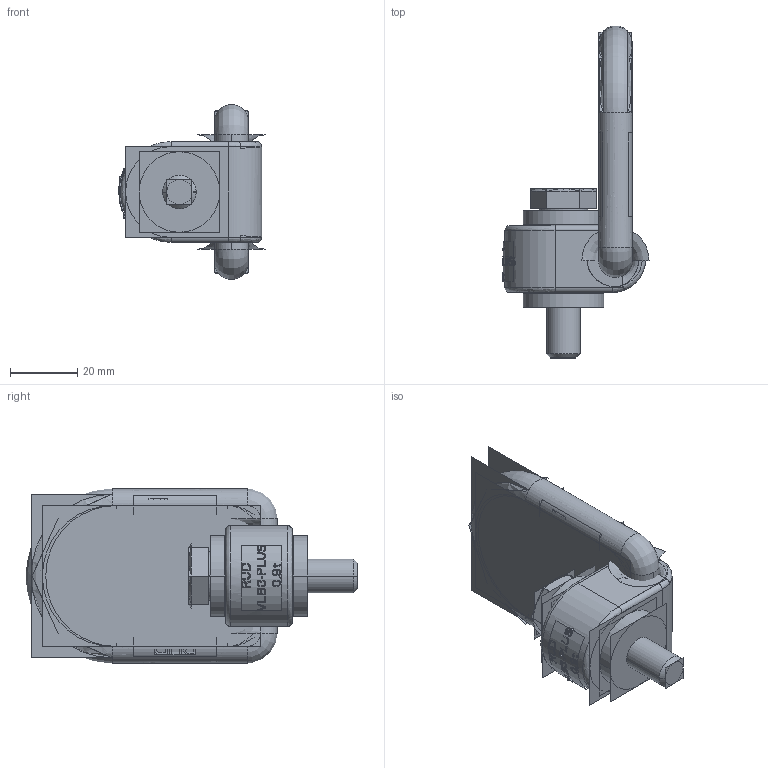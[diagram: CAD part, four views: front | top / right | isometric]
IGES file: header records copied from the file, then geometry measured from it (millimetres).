
Start section:  PTC IGES file: VLBG-PLUS-M10-0,9t-8504652-M35329-P-1.igs
Bounding box: 43.5 x 98.88 x 52 mm (x, y, z)
Volume: 40028.3 mm3; surface area: 98435.2 mm2
Topology: 3 solids, 3 shells, 1610 faces, 7826 edges, 9458 vertices
Faces by surface type: bspline 1442, revolution 168
